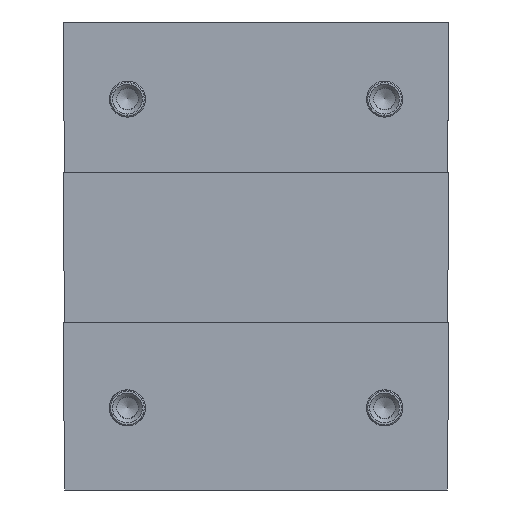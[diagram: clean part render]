
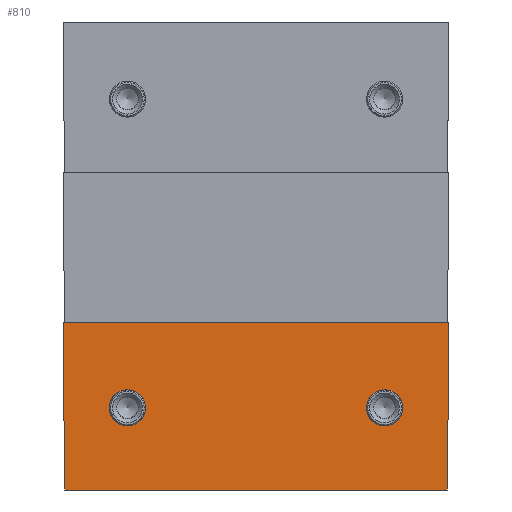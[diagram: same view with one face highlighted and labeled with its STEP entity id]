
A CAD part, front view. The second image highlights one B-rep face of the part: STEP entity #810.
In plain terms, the highlighted planar face has unit normal (0, -1, -0.009).
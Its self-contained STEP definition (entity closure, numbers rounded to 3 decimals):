
#810=ADVANCED_FACE('',(#2366,#2368,#2370),#2372,.T.);
#2366=FACE_BOUND('',#2367,.T.);
#2367=EDGE_LOOP('',(#3735,#3736,#3737,#3738));
#2368=FACE_BOUND('',#2369,.T.);
#2369=EDGE_LOOP('',(#3739));
#2370=FACE_BOUND('',#2371,.T.);
#2371=EDGE_LOOP('',(#3740));
#2372=PLANE('',#2373);
#2373=AXIS2_PLACEMENT_3D('',#2374,#2375,#2376);
#2374=CARTESIAN_POINT('',(0.,-81.641,253.093));
#2375=DIRECTION('',(-0.,-1.,-0.009));
#2376=DIRECTION('',(-1.,0.,0.));
#3735=ORIENTED_EDGE('',*,*,#4507,.F.);
#3736=ORIENTED_EDGE('',*,*,#4491,.T.);
#3737=ORIENTED_EDGE('',*,*,#4506,.T.);
#3738=ORIENTED_EDGE('',*,*,#4508,.T.);
#3739=ORIENTED_EDGE('',*,*,#4509,.T.);
#3740=ORIENTED_EDGE('',*,*,#4510,.F.);
#4491=EDGE_CURVE('',#4887,#4885,#4888,.T.);
#4506=EDGE_CURVE('',#4885,#4910,#4912,.T.);
#4507=EDGE_CURVE('',#4887,#4913,#4914,.T.);
#4508=EDGE_CURVE('',#4910,#4913,#4915,.T.);
#4509=EDGE_CURVE('',#4916,#4916,#4917,.T.);
#4510=EDGE_CURVE('',#4918,#4918,#4919,.T.);
#4885=VERTEX_POINT('',#5564);
#4887=VERTEX_POINT('',#5568);
#4888=LINE('',#5569,#5570);
#4910=VERTEX_POINT('',#5624);
#4912=LINE('',#5628,#5629);
#4913=VERTEX_POINT('',#5631);
#4914=LINE('',#5632,#5633);
#4915=LINE('',#5635,#5636);
#4916=VERTEX_POINT('',#5638);
#4917=(BOUNDED_CURVE()B_SPLINE_CURVE(3,
(#5639,#5640,#5641,#5642,#5643,#5644,#5645),
.UNSPECIFIED.,.T.,.F.)B_SPLINE_CURVE_WITH_KNOTS((4,3,4),
(0.,0.5,1.),
.UNSPECIFIED.)CURVE()GEOMETRIC_REPRESENTATION_ITEM()RATIONAL_B_SPLINE_CURVE((1.,
0.333,0.333,1.,0.333,0.333,1.))
REPRESENTATION_ITEM(''));
#4918=VERTEX_POINT('',#5646);
#4919=(BOUNDED_CURVE()B_SPLINE_CURVE(3,
(#5647,#5648,#5649,#5650,#5651,#5652,#5653),
.UNSPECIFIED.,.T.,.F.)B_SPLINE_CURVE_WITH_KNOTS((4,3,4),
(0.,0.5,1.),
.UNSPECIFIED.)CURVE()GEOMETRIC_REPRESENTATION_ITEM()RATIONAL_B_SPLINE_CURVE((1.,
0.333,0.333,1.,0.333,0.333,1.))
REPRESENTATION_ITEM(''));
#5564=CARTESIAN_POINT('',(74.433,-79.433,0.));
#5568=CARTESIAN_POINT('',(-74.433,-79.433,0.));
#5569=CARTESIAN_POINT('',(-74.433,-79.433,0.));
#5570=VECTOR('',#5571,1.);
#5571=DIRECTION('',(1.,0.,0.));
#5624=CARTESIAN_POINT('',(75.,-80.,65.));
#5628=CARTESIAN_POINT('',(74.433,-79.433,0.));
#5629=VECTOR('',#5630,1.);
#5630=DIRECTION('',(0.009,-0.009,1.));
#5631=CARTESIAN_POINT('',(-75.,-80.,65.));
#5632=CARTESIAN_POINT('',(-74.433,-79.433,0.));
#5633=VECTOR('',#5634,1.);
#5634=DIRECTION('',(-0.009,-0.009,1.));
#5635=CARTESIAN_POINT('',(75.,-80.,65.));
#5636=VECTOR('',#5637,1.);
#5637=DIRECTION('',(-1.,0.,0.));
#5638=CARTESIAN_POINT('',(-43.,-79.712,32.));
#5639=CARTESIAN_POINT('',(-43.,-79.712,32.));
#5640=CARTESIAN_POINT('',(-43.,-79.59,18.));
#5641=CARTESIAN_POINT('',(-57.,-79.59,18.));
#5642=CARTESIAN_POINT('',(-57.,-79.712,32.));
#5643=CARTESIAN_POINT('',(-57.,-79.834,46.));
#5644=CARTESIAN_POINT('',(-43.,-79.834,46.));
#5645=CARTESIAN_POINT('',(-43.,-79.712,32.));
#5646=CARTESIAN_POINT('',(43.,-79.712,32.));
#5647=CARTESIAN_POINT('',(43.,-79.712,32.));
#5648=CARTESIAN_POINT('',(43.,-79.59,18.));
#5649=CARTESIAN_POINT('',(57.,-79.59,18.));
#5650=CARTESIAN_POINT('',(57.,-79.712,32.));
#5651=CARTESIAN_POINT('',(57.,-79.834,46.));
#5652=CARTESIAN_POINT('',(43.,-79.834,46.));
#5653=CARTESIAN_POINT('',(43.,-79.712,32.));
